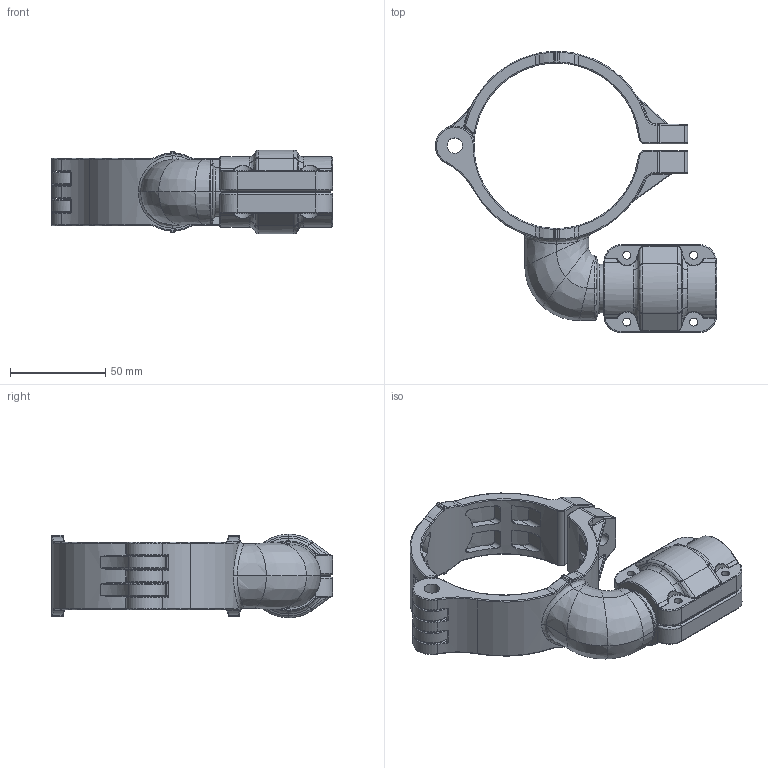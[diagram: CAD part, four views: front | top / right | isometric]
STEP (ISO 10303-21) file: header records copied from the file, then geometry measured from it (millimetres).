
FILE_DESCRIPTION((''),'2;1');
FILE_NAME('2015721099_ASM_5_ASM','2017-05-15T',('Administrator'),(''),'PRO/ENGINEER BY PARAMETRIC TECHNOLOGY CORPORATION, 2009360','PRO/ENGINEER BY PARAMETRIC TECHNOLOGY CORPORATION, 2009360','');
FILE_SCHEMA(('AUTOMOTIVE_DESIGN_CC2 { 1 2 10303 214 -1 1 5 2 }'));
Length unit declared in the file: millimetre
Products named in the file (8): 2017_7210_00_00_1_1; 2016_7210_00_01_1_2; 2016721000_ASM_3_ASM_1_ASM; 2016721000_ASM_ASM_1_ASM; 201520020000_23_1; 201520020001_10_1; 2015200200_ASM_1_ASM; 2015721099_ASM_5_ASM
Assembly tree (7 placements, depth 4):
  2015721099_ASM_5_ASM
    2016721000_ASM_ASM_1_ASM
      2016721000_ASM_3_ASM_1_ASM
        2017_7210_00_00_1_1
        2016_7210_00_01_1_2
    2015200200_ASM_1_ASM
      201520020000_23_1
      201520020001_10_1
Bounding box: 147.27 x 147.26 x 43.8 mm (x, y, z)
Volume: 149691.1 mm3; surface area: 64738.9 mm2
Topology: 4 solids, 4 shells, 933 faces, 2289 edges, 1358 vertices
Faces by surface type: cylinder 337, bspline 278, torus 158, plane 132, sphere 24, cone 4
Entity records: 47998 total; most frequent: CARTESIAN_POINT 21185, ORIENTED_EDGE 4530, DIRECTION 3681, PRESENTATION_STYLE_ASSIGNMENT 2269, STYLED_ITEM 2269, CURVE_STYLE 2265, EDGE_CURVE 2265, AXIS2_PLACEMENT_3D 1547
